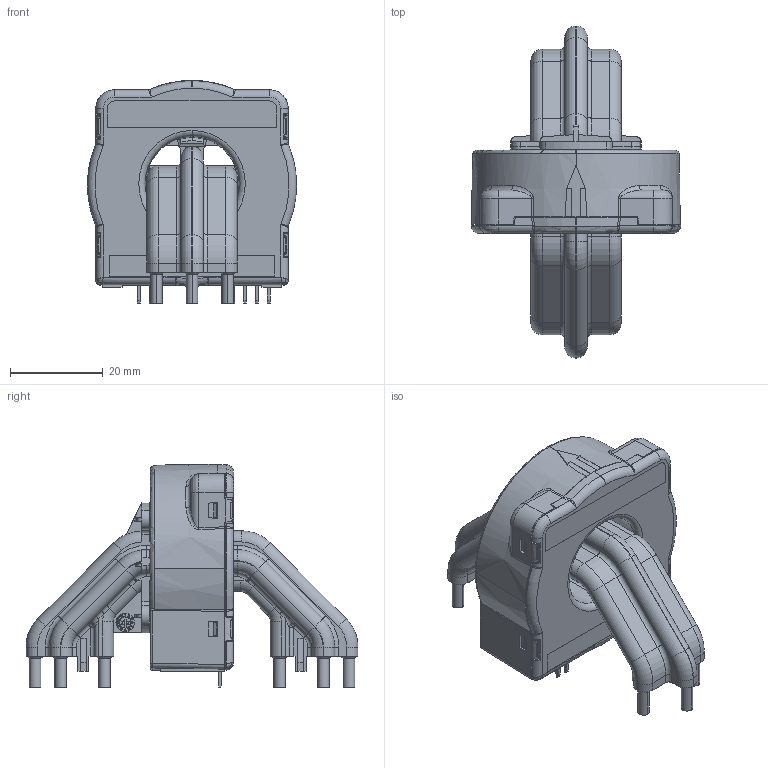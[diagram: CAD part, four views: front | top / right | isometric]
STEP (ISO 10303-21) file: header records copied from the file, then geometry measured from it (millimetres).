
FILE_DESCRIPTION(('CoCreate Modeling STEP Export'),'2;1');
FILE_NAME('CTSR 0.3-TP_SP14 blackbox.stp','2013-05-17T19:33:57',(''),(''),'CoCreate Modeling STEP processor for AP214 (Solid Model)','CoCreate Modeling 17.00A 17-Jun-2010 (C) Parametric Technology GmbH','');
FILE_SCHEMA(('AUTOMOTIVE_DESIGN { 1 0 10303 214 1 1 1 1 }'));
Products named in the file (2): CTSR_0.3-TP_SP14_blackbox
Assembly tree (1 placements, depth 2):
  CTSR_0.3-TP_SP14_blackbox
    CTSR_0.3-TP_SP14_blackbox
Bounding box: 45 x 71.41 x 48.06 mm (x, y, z)
Volume: 35439.4 mm3; surface area: 13212.1 mm2
Topology: 1 solids, 1 shells, 1630 faces, 4480 edges, 2897 vertices
Faces by surface type: plane 1009, cylinder 380, bspline 87, torus 75, cone 65, sphere 10, extrusion 4
Entity records: 61280 total; most frequent: CARTESIAN_POINT 20950, ORIENTED_EDGE 8934, DIRECTION 7333, EDGE_CURVE 4466, VECTOR 3107, LINE 3103, VERTEX_POINT 2897, AXIS2_PLACEMENT_3D 2113
